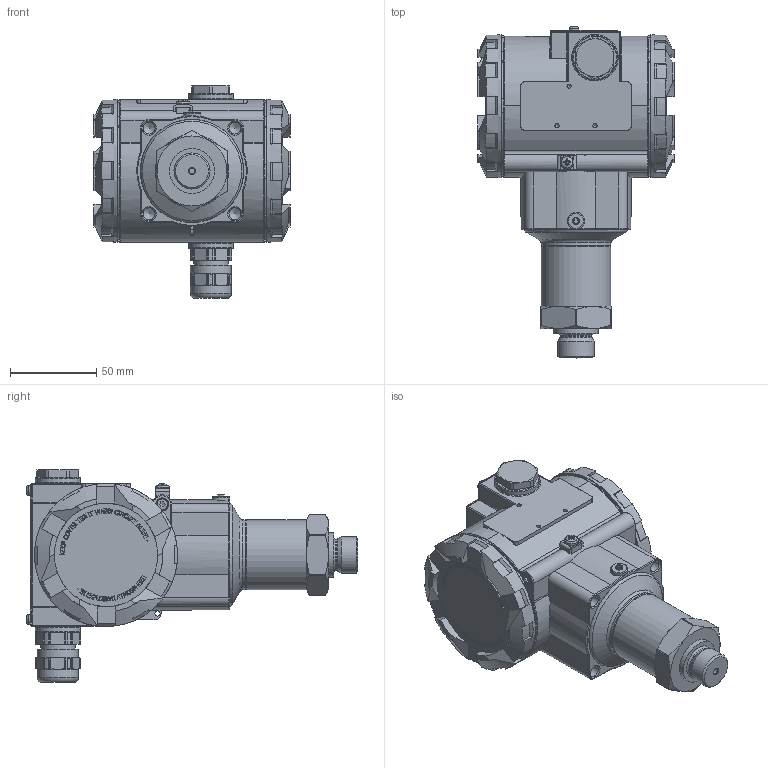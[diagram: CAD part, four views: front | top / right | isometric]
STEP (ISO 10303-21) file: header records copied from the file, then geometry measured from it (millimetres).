
FILE_DESCRIPTION(/* description */ (''),/* implementation_level */ '2;1');
FILE_NAME(/* name */ 'C:\Users\cz1166\Documents\STEP\XMPci-51E-xxxx-AN-x-x-AK0-100-x-x-000.stp',/* time_stamp */ '2020-04-22T08:01:43+02:00',/* author */ ('cz1166'),/* organization */ (''),/* preprocessor_version */ 'ST-DEVELOPER v16.5',/* originating_system */ 'Autodesk Inventor 2017',/* authorisation */ '');
FILE_SCHEMA (('AUTOMOTIVE_DESIGN { 1 0 10303 214 3 1 1 }'));
Length unit declared in the file: millimetre
Products named in the file (1): XMPci-51E-xxxx-AN-x-x-AK0-100-x-x-000
Bounding box: 114 x 192.68 x 123.57 mm (x, y, z)
Volume: 451883.4 mm3; surface area: 122592.9 mm2
Topology: 1 solids, 1 shells, 2444 faces, 6531 edges, 4242 vertices
Faces by surface type: plane 1555, bspline 386, cylinder 283, cone 140, torus 67, sphere 13
Full cylindrical faces by diameter (mm): 2 x1, 2.459 x6, 2.46 x3, 2.729 x1, 3 x1, 3.242 x1, 3.3 x1, 4 x4, 4.5 x1, 5 x1, 5.188 x2, 6 x2, 6.917 x4, 7 x2, 7.5 x2, 10 x1, 18.376 x2, 18.4 x1, 20 x1, 20.955 x1, 24 x2, 26 x3, 28 x1, 40 x1, 40.6 x2, 48 x1, 52.4 x1, 53.5 x1, 54.2 x1, 54.5 x1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
Entity records: 81055 total; most frequent: CARTESIAN_POINT 20983, ORIENTED_EDGE 12654, DIRECTION 10468, EDGE_CURVE 6325, LINE 4244, VECTOR 4244, VERTEX_POINT 4179, AXIS2_PLACEMENT_3D 3112
